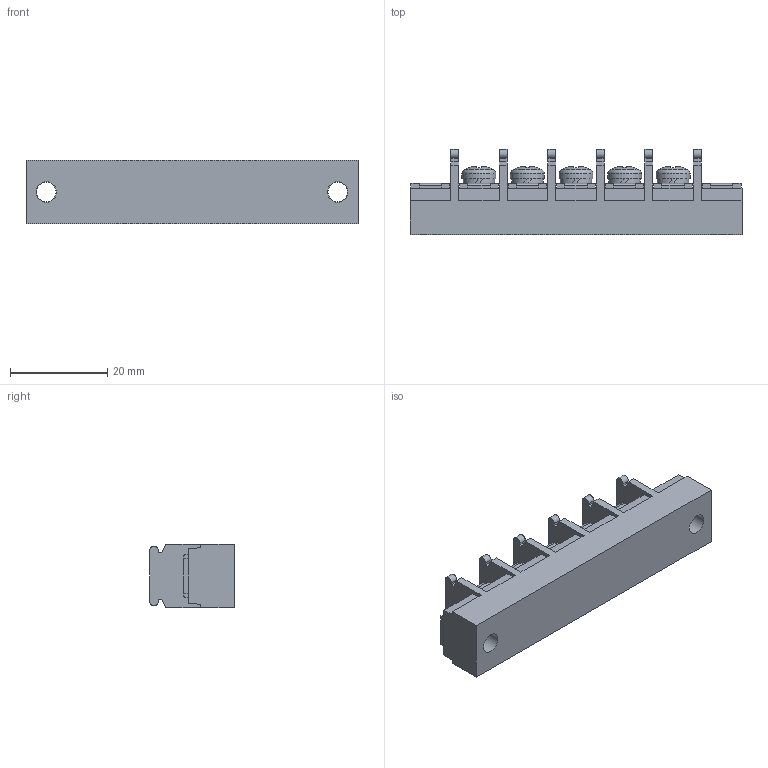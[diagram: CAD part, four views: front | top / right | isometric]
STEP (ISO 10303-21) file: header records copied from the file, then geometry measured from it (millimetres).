
FILE_DESCRIPTION(/* description */ ('Alibre Inc.'),/* implementation_level */ '2;1');
FILE_NAME(/* name */ 'export0',/* time_stamp */ '2015-10-17T18:41:10+09:00',/* author */ (''),/* organization */ (''),/* preprocessor_version */ 'ST-DEVELOPER v14',/* originating_system */ 'Alibre',/* authorisation */ '');
FILE_SCHEMA (('CONFIG_CONTROL_DESIGN'));
Length unit declared in the file: centimetre
Products named in the file (1): ID_1
Bounding box: 68.4 x 17.5 x 13 mm (x, y, z)
Volume: 9819.8 mm3; surface area: 5741.2 mm2
Topology: 1 solids, 17 shells, 730 faces, 1973 edges, 1311 vertices
Faces by surface type: plane 546, bspline 104, cylinder 45, cone 20, torus 10, sphere 5
Full cylindrical faces by diameter (mm): 4 x7, 4.2 x2, 6.5 x5, 7 x5
Entity records: 22175 total; most frequent: CARTESIAN_POINT 5047, ORIENTED_EDGE 3864, DIRECTION 2622, EDGE_CURVE 1932, VECTOR 1452, LINE 1452, VERTEX_POINT 1294, AXIS2_PLACEMENT_3D 853
